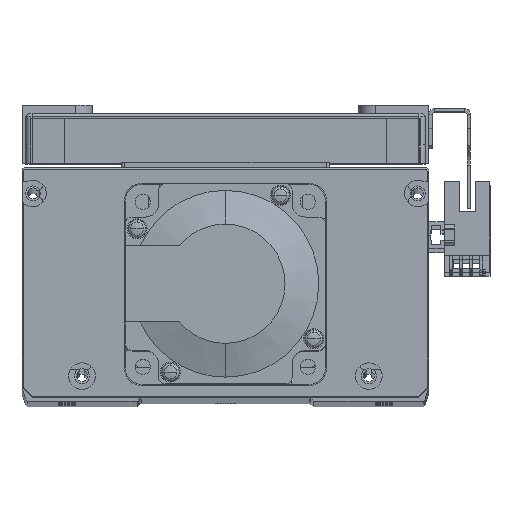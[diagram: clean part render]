
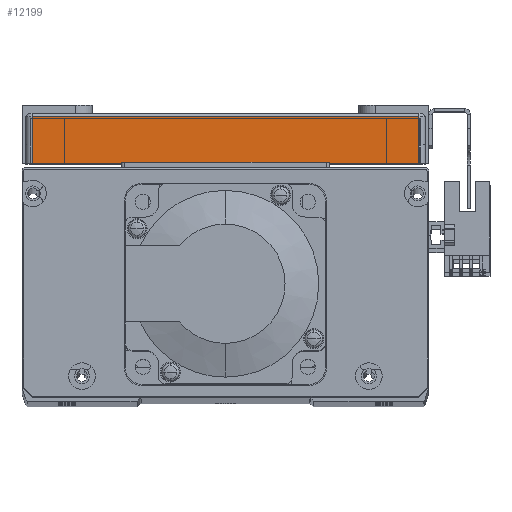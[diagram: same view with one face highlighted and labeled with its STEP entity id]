
A CAD part, top view. The second image highlights one B-rep face of the part: STEP entity #12199.
In plain terms, the highlighted planar face has unit normal (0, 0, 1) as drawn and (1, 0, 0) by its records, which use the part's own axes.
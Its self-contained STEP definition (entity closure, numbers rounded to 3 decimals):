
#1249 = DIRECTION ( 'NONE',  ( 0., 1., 0. ) ) ;
#1254 = CARTESIAN_POINT ( 'NONE',  ( 82.5, 15., -58. ) ) ;
#1319 = DIRECTION ( 'NONE',  ( 0., 0., 1. ) ) ;
#1328 = CARTESIAN_POINT ( 'NONE',  ( 82.5, 14., 58. ) ) ;
#1360 = DIRECTION ( 'NONE',  ( 0., 0., -1. ) ) ;
#1379 = CARTESIAN_POINT ( 'NONE',  ( 82.5, 0., -60. ) ) ;
#2161 = ORIENTED_EDGE ( 'NONE', *, *, #29743, .T. ) ;
#2211 = ORIENTED_EDGE ( 'NONE', *, *, #29696, .T. ) ;
#2215 = ORIENTED_EDGE ( 'NONE', *, *, #29739, .T. ) ;
#4322 = DIRECTION ( 'NONE',  ( 0., -1., 0. ) ) ;
#4334 = CARTESIAN_POINT ( 'NONE',  ( 82.5, 15., 58. ) ) ;
#8198 = VECTOR ( 'NONE', #1360, 1000. ) ;
#8236 = LINE ( 'NONE', #1328, #8300 ) ;
#8300 = VECTOR ( 'NONE', #1319, 1000. ) ;
#8311 = LINE ( 'NONE', #1379, #8198 ) ;
#9642 = VECTOR ( 'NONE', #4322, 1000. ) ;
#9646 = LINE ( 'NONE', #4334, #9642 ) ;
#9720 = VECTOR ( 'NONE', #1249, 1000. ) ;
#9723 = LINE ( 'NONE', #1254, #9720 ) ;
#12199 = ADVANCED_FACE ( 'NONE', ( #27942 ), #56661, .F. ) ;
#27942 = FACE_OUTER_BOUND ( 'NONE', #40099, .T. ) ;
#29663 = EDGE_CURVE ( 'NONE', #46287, #46318, #9646, .T. ) ;
#29696 = EDGE_CURVE ( 'NONE', #46292, #46280, #9723, .T. ) ;
#29739 = EDGE_CURVE ( 'NONE', #46280, #46287, #8236, .T. ) ;
#29743 = EDGE_CURVE ( 'NONE', #46318, #46292, #8311, .T. ) ;
#35399 = AXIS2_PLACEMENT_3D ( 'NONE', #56662, #56688, #56666 ) ;
#38997 = ORIENTED_EDGE ( 'NONE', *, *, #29663, .T. ) ;
#40099 = EDGE_LOOP ( 'NONE', ( #2211, #2215, #38997, #2161 ) ) ;
#46280 = VERTEX_POINT ( 'NONE', #53093 ) ;
#46287 = VERTEX_POINT ( 'NONE', #53153 ) ;
#46292 = VERTEX_POINT ( 'NONE', #53069 ) ;
#46318 = VERTEX_POINT ( 'NONE', #53073 ) ;
#53069 = CARTESIAN_POINT ( 'NONE',  ( 82.5, 0., -58. ) ) ;
#53073 = CARTESIAN_POINT ( 'NONE',  ( 82.5, 0., 58. ) ) ;
#53093 = CARTESIAN_POINT ( 'NONE',  ( 82.5, 14., -58. ) ) ;
#53153 = CARTESIAN_POINT ( 'NONE',  ( 82.5, 14., 58. ) ) ;
#56661 = PLANE ( 'NONE',  #35399 ) ;
#56662 = CARTESIAN_POINT ( 'NONE',  ( 82.5, 15., -60. ) ) ;
#56666 = DIRECTION ( 'NONE',  ( 0., 0., 1. ) ) ;
#56688 = DIRECTION ( 'NONE',  ( -1., 0., 0. ) ) ;
